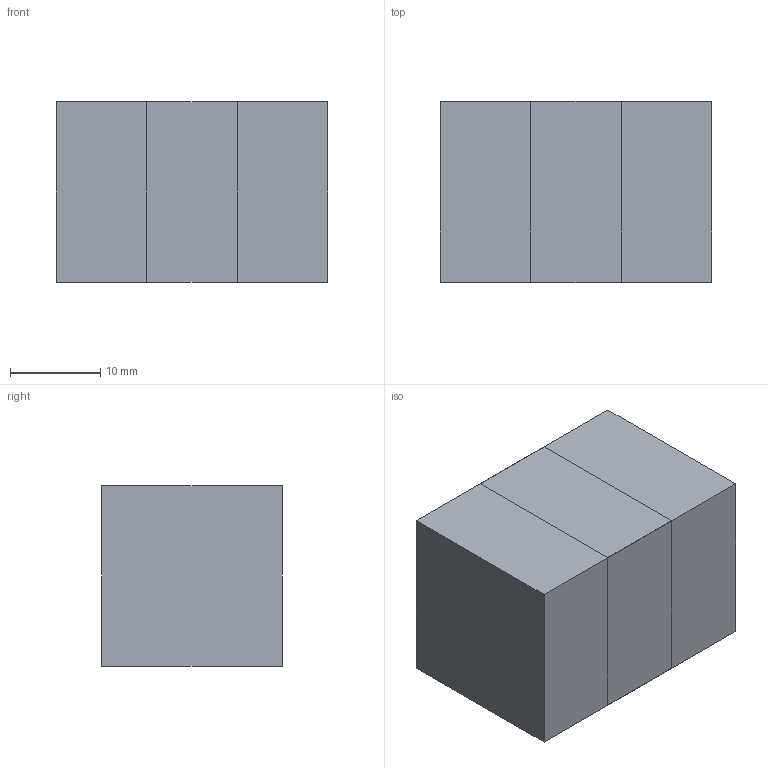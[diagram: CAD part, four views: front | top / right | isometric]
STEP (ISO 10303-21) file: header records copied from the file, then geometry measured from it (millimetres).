
FILE_DESCRIPTION(('Open CASCADE Model'),'2;1');
FILE_NAME('Open CASCADE Shape Model','2026-09-02T22:40:03',('Author'),( 'Open CASCADE'),'Open CASCADE STEP processor 7.8','Open CASCADE 7.8' ,'Unknown');
FILE_SCHEMA(('AUTOMOTIVE_DESIGN { 1 0 10303 214 1 1 1 1 }'));
Length unit declared in the file: millimetre
Products named in the file (2): Open CASCADE STEP translator 7.8 6; Open CASCADE STEP translator 7.8 7
Bounding box: 30 x 20 x 20 mm (x, y, z)
Surface area: 4800 mm2
Topology: 2 solids, 2 shells, 12 faces, 24 edges, 16 vertices
Faces by surface type: plane 12
Entity records: 638 total; most frequent: CARTESIAN_POINT 101, DIRECTION 98, LINE 72, VECTOR 72, ORIENTED_EDGE 48, PCURVE 48, DEFINITIONAL_REPRESENTATION 48, EDGE_CURVE 24
